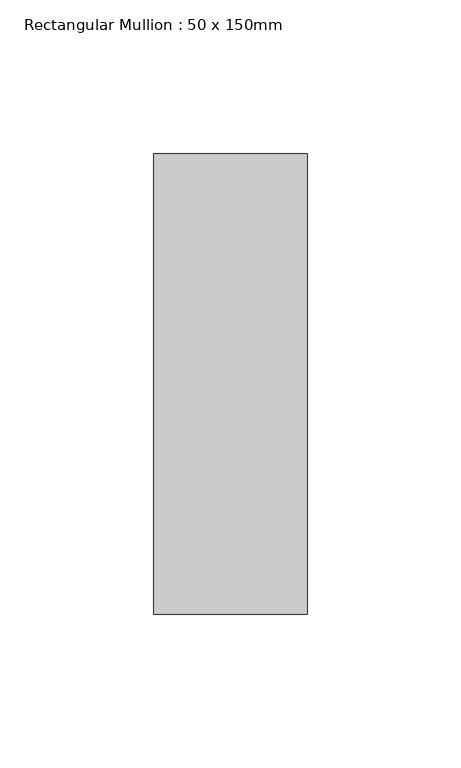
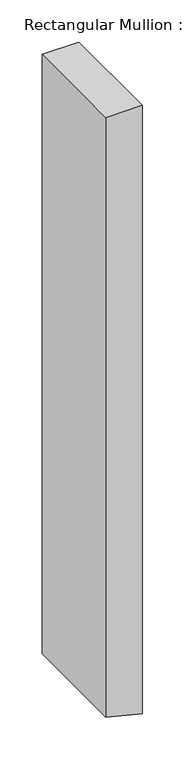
"""IFC4 building model written with IfcOpenShell, lengths in millimetres: member geometry, Rectangular Mullion : 50 x 150mm."""

from ifc_helpers import new_model, si_unit, frame, origin, place, context, project, spatial, polyline, outline, extrude, source, transform, mapped, element, save


def rectangular_mullion_50_x_150mm_525be40b(model_context):
    return source(origin(), model_context, "Body", "SweptSolid", [
        extrude(outline(polyline([(0.0, 0.0), (0.0857687, -50.0), (-864.5352398, -50.0), (-877.0065163, 0.0), (0.0, 0.0)])), frame((0.0, -75.0, 0.0), z_axis=(0.0, 1.0, 0.0), x_axis=(0.0, 0.0, 1.0)), (0.0, 0.0, 1.0), 150.0),
    ])


if __name__ == "__main__":
    model = new_model("IFC4")
    model_context = context("Model", 3, world=origin())
    ifc_project = project(units=[si_unit("LENGTHUNIT", "METRE", prefix="MILLI")], contexts=[model_context])
    site = spatial("IfcSite", under=ifc_project)
    building = spatial("IfcBuilding", under=site)
    placement = place(None, origin())
    rectangular_mullion_50_x_150mm_shape = rectangular_mullion_50_x_150mm_525be40b(model_context)
    element("IfcMember", 1, ObjectType="Rectangular Mullion : 50 x 150mm", at=placement, inside=building, context=model_context, shape_type="MappedRepresentation", body=[
        mapped(rectangular_mullion_50_x_150mm_shape, transform((0.0, 0.0, 0.0), x_axis=(1.0, 0.0, 0.0), y_axis=(0.0, 1.0, 0.0), z_axis=(0.0, 0.0, 1.0))),
    ])
    save(model, "model.ifc")
